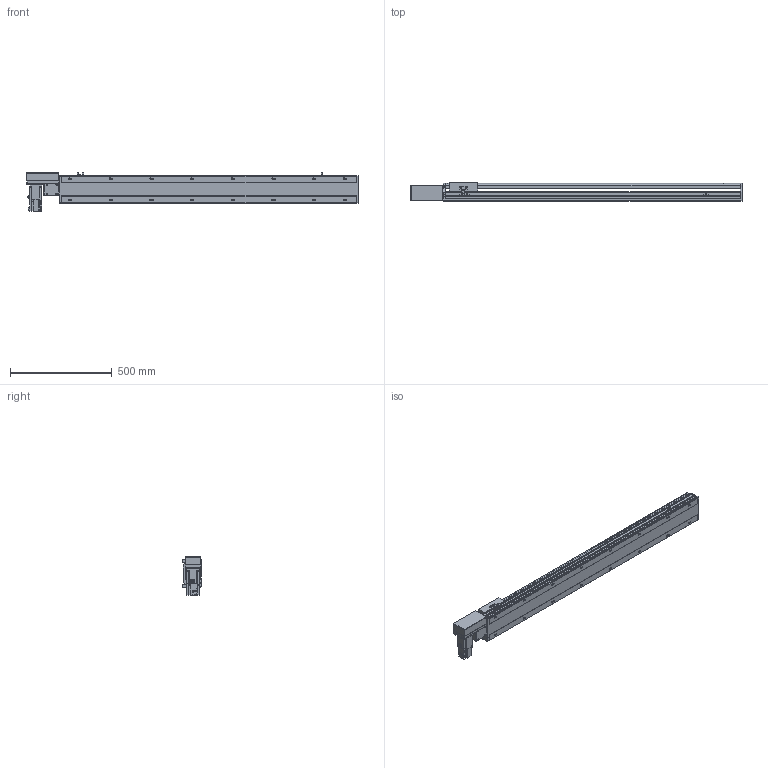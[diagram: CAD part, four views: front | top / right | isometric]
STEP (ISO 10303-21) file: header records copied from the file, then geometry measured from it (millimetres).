
FILE_DESCRIPTION(/* description */ ('STEP AP214'),/* implementation_level */ '2;1');
FILE_NAME(/* name */ 'PBS140S-P40-S1200-R-T40-C1-N(0)',/* time_stamp */ '2022-06-09T02:17:25+02:00',/* author */ ('License CC BY-ND 4.0'),/* organization */ ('CADENAS'),/* preprocessor_version */ 'ST-DEVELOPER v18.102',/* originating_system */ 'PARTsolutions',/* authorisation */ ' ');
FILE_SCHEMA (('AUTOMOTIVE_DESIGN {1 0 10303 214 3 1 1}'));
Length unit declared in the file: millimetre
Products named in the file (7): PBS140S-P40-S1200-R-T40-C1-N(0); PBS140S_sensor; PBS140S_plant; PBS140S_sliser; T40-p1; PBS140ST-R_motors; PBS140S-S1200()_body
Assembly tree (8 placements, depth 2):
  PBS140S-P40-S1200-R-T40-C1-N(0)
    PBS140S_sensor  x3
    PBS140S_plant
    PBS140S_sliser
    T40-p1
    PBS140ST-R_motors
    PBS140S-S1200()_body
Bounding box: 1633 x 93 x 189.7 mm (x, y, z)
Volume: 7950648.8 mm3; surface area: 1367947.5 mm2
Topology: 8 solids, 8 shells, 1099 faces, 2911 edges, 1905 vertices
Faces by surface type: plane 702, cylinder 345, cone 42, sphere 8, torus 2
Full cylindrical faces by diameter (mm): 3.242 x4, 4 x2, 4.134 x4, 4.4 x8, 4.5 x2, 4.8 x4, 4.917 x24, 5.5 x7, 6 x2, 7 x18, 7.5 x8, 8 x12, 8.5 x4, 10.5 x16, 14 x1, 30 x2, 50 x2
Entity records: 31496 total; most frequent: CARTESIAN_POINT 5816, DIRECTION 5348, ORIENTED_EDGE 5062, EDGE_CURVE 2531, AXIS2_PLACEMENT_3D 1859, VERTEX_POINT 1753, LINE 1630, VECTOR 1630
